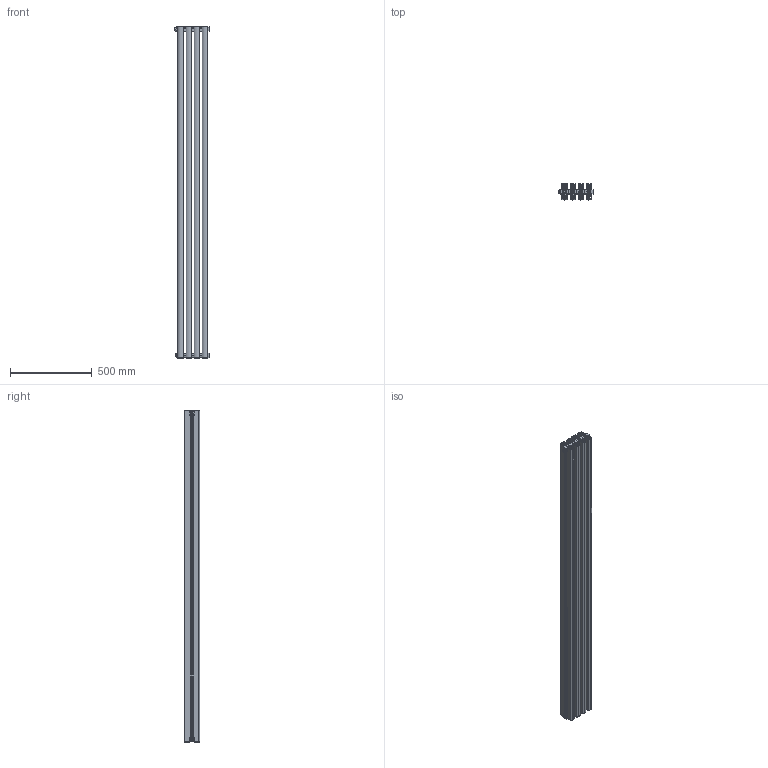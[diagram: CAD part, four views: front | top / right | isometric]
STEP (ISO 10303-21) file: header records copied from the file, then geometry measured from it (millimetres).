
FILE_DESCRIPTION (( 'STEP AP214' ), '1' );
FILE_NAME ('TONALE 2000_4.STEP', '2024-07-22T08:31:32', ( '' ), ( '' ), 'SwSTEP 2.0', 'SolidWorks 2024', '' );
FILE_SCHEMA (( 'AUTOMOTIVE_DESIGN' ));
Length unit declared in the file: millimetre
Products named in the file (12): ETV600G_foro Ø 4; P3EL00002A_2000; Coperchietto; P3EL00004A_4 elementi CS; Assieme vitone con o_ring; O-RING 2,4 D16,3; Art.011; Art.041; EPC10022D_1000; P3EL00004A_4 elementi; TONALE 2000_4
Assembly tree (27 placements, depth 3):
  TONALE 2000_4
    EPC10022D_1000  x4
    Art.011  x3
      Art.011
      Coperchietto
    Art.041
    P3EL00002A_2000  x4
    P3EL00004A_4 elementi CS
    Assieme vitone con o_ring  x8
      ETV600G_foro Ø 4
      O-RING 2,4 D16,3
    P3EL00004A_4 elementi
Bounding box: 216.3 x 95 x 2037 mm (x, y, z)
Volume: 4810662.7 mm3; surface area: 5890161.8 mm2
Topology: 44 solids, 44 shells, 2616 faces, 7147 edges, 4558 vertices
Faces by surface type: plane 1156, cylinder 1030, cone 232, bspline 102, torus 80, sphere 16
Entity records: 29111 total; most frequent: CARTESIAN_POINT 10122, ORIENTED_EDGE 3942, DIRECTION 3849, EDGE_CURVE 1971, AXIS2_PLACEMENT_3D 1332, VERTEX_POINT 1279, VECTOR 1185, LINE 1185
